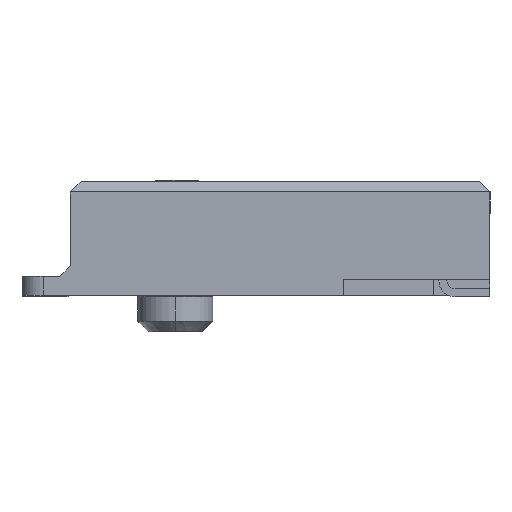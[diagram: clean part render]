
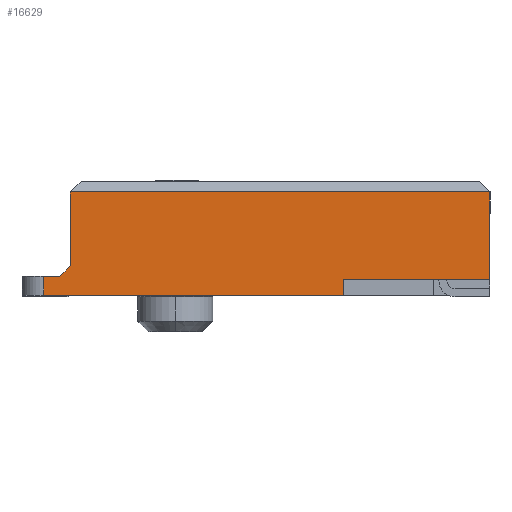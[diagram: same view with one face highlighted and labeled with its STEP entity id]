
A CAD part, left-side view. The second image highlights one B-rep face of the part: STEP entity #16629.
In plain terms, the highlighted planar face has unit normal (-1, 0, 0).
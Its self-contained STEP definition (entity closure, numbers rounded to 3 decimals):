
#1788 = LINE ( 'NONE', #58862, #18201 ) ;
#2254 = VECTOR ( 'NONE', #45306, 1000. ) ;
#2522 = CARTESIAN_POINT ( 'NONE',  ( -10.95, 4.2, 0.38 ) ) ;
#2525 = CARTESIAN_POINT ( 'NONE',  ( -10.95, -1.375, 0. ) ) ;
#3090 = CARTESIAN_POINT ( 'NONE',  ( -10.95, 3.7, 1.95 ) ) ;
#3397 = VECTOR ( 'NONE', #49644, 1000. ) ;
#3734 = PLANE ( 'NONE',  #46935 ) ;
#4602 = LINE ( 'NONE', #61676, #6923 ) ;
#4693 = VECTOR ( 'NONE', #59608, 1000. ) ;
#5876 = VERTEX_POINT ( 'NONE', #59182 ) ;
#6787 = ORIENTED_EDGE ( 'NONE', *, *, #24204, .T. ) ;
#6923 = VECTOR ( 'NONE', #55169, 1000. ) ;
#7142 = VECTOR ( 'NONE', #31431, 1000. ) ;
#9021 = LINE ( 'NONE', #2525, #4693 ) ;
#10062 = EDGE_CURVE ( 'NONE', #21423, #41566, #61785, .T. ) ;
#11216 = VERTEX_POINT ( 'NONE', #52600 ) ;
#12952 = EDGE_CURVE ( 'NONE', #31709, #13827, #62685, .T. ) ;
#13827 = VERTEX_POINT ( 'NONE', #19152 ) ;
#15746 = ORIENTED_EDGE ( 'NONE', *, *, #49181, .T. ) ;
#16629 = ADVANCED_FACE ( 'NONE', ( #45309 ), #3734, .T. ) ;
#18201 = VECTOR ( 'NONE', #52340, 1000. ) ;
#18468 = EDGE_CURVE ( 'NONE', #44614, #45413, #4602, .T. ) ;
#19152 = CARTESIAN_POINT ( 'NONE',  ( -10.95, 3.9, 0.38 ) ) ;
#21423 = VERTEX_POINT ( 'NONE', #3090 ) ;
#24204 = EDGE_CURVE ( 'NONE', #41566, #13827, #1788, .T. ) ;
#24632 = DIRECTION ( 'NONE',  ( 0., 0., -1. ) ) ;
#31138 = CARTESIAN_POINT ( 'NONE',  ( -10.95, 4.2, 0.03 ) ) ;
#31431 = DIRECTION ( 'NONE',  ( 0., 1., 0. ) ) ;
#31709 = VERTEX_POINT ( 'NONE', #2522 ) ;
#33085 = CARTESIAN_POINT ( 'NONE',  ( -10.95, 3.7, 0.58 ) ) ;
#35836 = VECTOR ( 'NONE', #42652, 1000. ) ;
#36070 = EDGE_CURVE ( 'NONE', #11216, #5876, #55719, .T. ) ;
#36328 = EDGE_CURVE ( 'NONE', #5876, #44163, #58351, .T. ) ;
#36609 = ORIENTED_EDGE ( 'NONE', *, *, #18468, .T. ) ;
#37617 = LINE ( 'NONE', #31138, #38994 ) ;
#37677 = CARTESIAN_POINT ( 'NONE',  ( -10.95, -4.1, 1.95 ) ) ;
#37917 = CARTESIAN_POINT ( 'NONE',  ( -10.95, -5.76, 1.95 ) ) ;
#38481 = ORIENTED_EDGE ( 'NONE', *, *, #41922, .T. ) ;
#38994 = VECTOR ( 'NONE', #24632, 1000. ) ;
#41566 = VERTEX_POINT ( 'NONE', #33085 ) ;
#41922 = EDGE_CURVE ( 'NONE', #31709, #44614, #37617, .T. ) ;
#42652 = DIRECTION ( 'NONE',  ( 0., -1., 0. ) ) ;
#43912 = EDGE_CURVE ( 'NONE', #45413, #11216, #9021, .T. ) ;
#44163 = VERTEX_POINT ( 'NONE', #37677 ) ;
#44451 = LINE ( 'NONE', #37917, #7142 ) ;
#44614 = VERTEX_POINT ( 'NONE', #55617 ) ;
#45306 = DIRECTION ( 'NONE',  ( 0., 0., 1. ) ) ;
#45309 = FACE_OUTER_BOUND ( 'NONE', #59227, .T. ) ;
#45413 = VERTEX_POINT ( 'NONE', #62371 ) ;
#46935 = AXIS2_PLACEMENT_3D ( 'NONE', #60818, #54295, #47764 ) ;
#47764 = DIRECTION ( 'NONE',  ( 0., 0., 1. ) ) ;
#48746 = DIRECTION ( 'NONE',  ( 0., 0., -1. ) ) ;
#49181 = EDGE_CURVE ( 'NONE', #44163, #21423, #44451, .T. ) ;
#49185 = CARTESIAN_POINT ( 'NONE',  ( -10.95, 4.6, 0.33 ) ) ;
#49355 = ORIENTED_EDGE ( 'NONE', *, *, #10062, .T. ) ;
#49644 = DIRECTION ( 'NONE',  ( 0., -1., 0. ) ) ;
#51843 = CARTESIAN_POINT ( 'NONE',  ( -10.95, -4.1, 0.03 ) ) ;
#52008 = ORIENTED_EDGE ( 'NONE', *, *, #36070, .T. ) ;
#52340 = DIRECTION ( 'NONE',  ( 0., 0.707, -0.707 ) ) ;
#52600 = CARTESIAN_POINT ( 'NONE',  ( -10.95, -1.375, 0.33 ) ) ;
#53666 = VECTOR ( 'NONE', #48746, 1000. ) ;
#53739 = ORIENTED_EDGE ( 'NONE', *, *, #12952, .F. ) ;
#54295 = DIRECTION ( 'NONE',  ( -1., 0., 0. ) ) ;
#55169 = DIRECTION ( 'NONE',  ( 0., -1., 0. ) ) ;
#55279 = CARTESIAN_POINT ( 'NONE',  ( -10.95, 3.7, 0.03 ) ) ;
#55617 = CARTESIAN_POINT ( 'NONE',  ( -10.95, 4.2, 0.03 ) ) ;
#55719 = LINE ( 'NONE', #49185, #35836 ) ;
#56172 = CARTESIAN_POINT ( 'NONE',  ( -10.95, 4.6, 0.38 ) ) ;
#58351 = LINE ( 'NONE', #51843, #2254 ) ;
#58862 = CARTESIAN_POINT ( 'NONE',  ( -10.95, 3.7, 0.58 ) ) ;
#59182 = CARTESIAN_POINT ( 'NONE',  ( -10.95, -4.1, 0.33 ) ) ;
#59227 = EDGE_LOOP ( 'NONE', ( #59894, #52008, #61737, #15746, #49355, #6787, #53739, #38481, #36609 ) ) ;
#59608 = DIRECTION ( 'NONE',  ( 0., 0., 1. ) ) ;
#59894 = ORIENTED_EDGE ( 'NONE', *, *, #43912, .T. ) ;
#60818 = CARTESIAN_POINT ( 'NONE',  ( -10.95, 4.6, 0.03 ) ) ;
#61676 = CARTESIAN_POINT ( 'NONE',  ( -10.95, 4.6, 0.03 ) ) ;
#61737 = ORIENTED_EDGE ( 'NONE', *, *, #36328, .T. ) ;
#61785 = LINE ( 'NONE', #55279, #53666 ) ;
#62371 = CARTESIAN_POINT ( 'NONE',  ( -10.95, -1.375, 0.03 ) ) ;
#62685 = LINE ( 'NONE', #56172, #3397 ) ;
